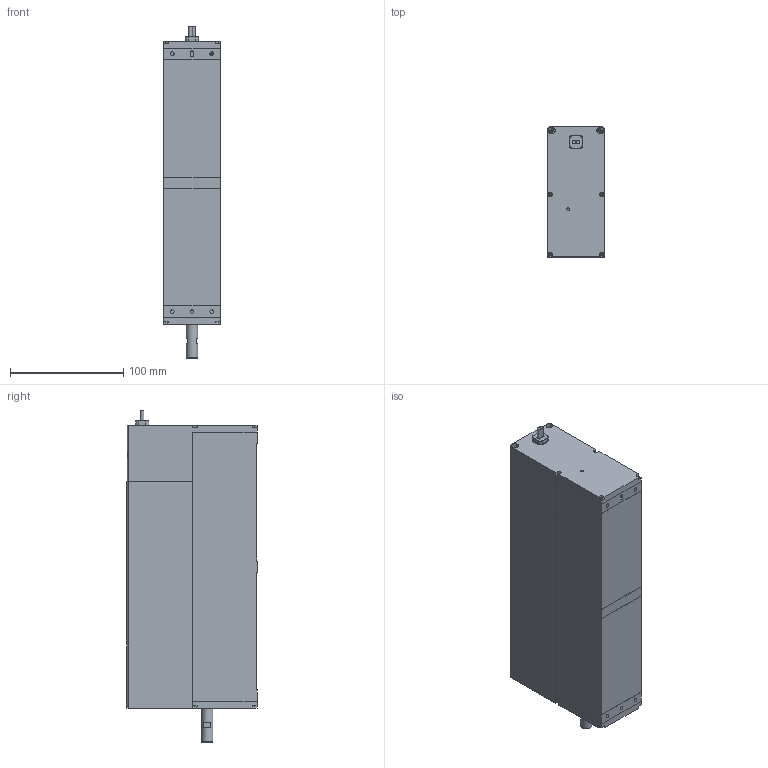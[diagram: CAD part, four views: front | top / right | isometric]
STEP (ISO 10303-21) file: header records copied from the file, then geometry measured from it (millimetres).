
FILE_DESCRIPTION((''),'2;1');
FILE_NAME('E:\SMAC-CAD\LCA\LCA 50\LCA 50-050\ASSY\LCA 50-050-3 EXPORT.stp','2012-09-14T08:47:17',('mark'),(''),'Autodesk Inventor 2008','Autodesk Inventor 2008','');
FILE_SCHEMA(('AUTOMOTIVE_DESIGN { 1 0 10303 214 1 1 1 1 }'));
Length unit declared in the file: millimetre
Products named in the file (13): LCA 50-050-3 EXPORT; BODY-LCA50-50mark; LCA 50 FRONT PLATE; CONN COVER; STOPPER; MAG HSG 50-50MARK; 66550-01_A; C-POLE 50-50-6; 66550-02_A; FEMALE SHAFT-50-6; BUSHING RETAINER 100-1; FRELON BUSHING; CABLE-G
Assembly tree (19 placements, depth 2):
  LCA 50-050-3 EXPORT
    BODY-LCA50-50mark
    LCA 50 FRONT PLATE
    CONN COVER
    STOPPER
    MAG HSG 50-50MARK
    66550-01_A  x6
    C-POLE 50-50-6
    66550-02_A  x3
    FEMALE SHAFT-50-6
    BUSHING RETAINER 100-1
    FRELON BUSHING
    CABLE-G
Bounding box: 50 x 115.1 x 293.5 mm (x, y, z)
Volume: 700051.2 mm3; surface area: 275138.4 mm2
Topology: 19 solids, 19 shells, 399 faces, 1028 edges, 679 vertices
Faces by surface type: plane 206, bspline 130, cylinder 51, torus 8, cone 4
Full cylindrical faces by diameter (mm): 2.9 x1, 3 x3, 4.5 x1, 10 x2, 10.5 x1, 12.5 x2, 16.5 x1, 25.5 x1
Entity records: 12273 total; most frequent: CARTESIAN_POINT 3919, DIRECTION 1566, ORIENTED_EDGE 1528, EDGE_CURVE 764, EDGE_LOOP 576, VERTEX_POINT 558, AXIS2_PLACEMENT_3D 549, VECTOR 468
